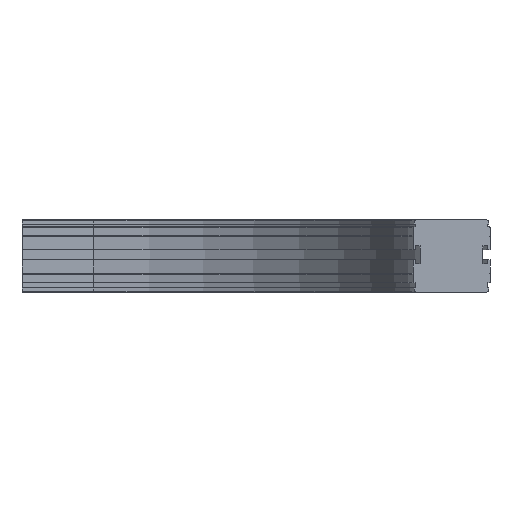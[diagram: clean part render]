
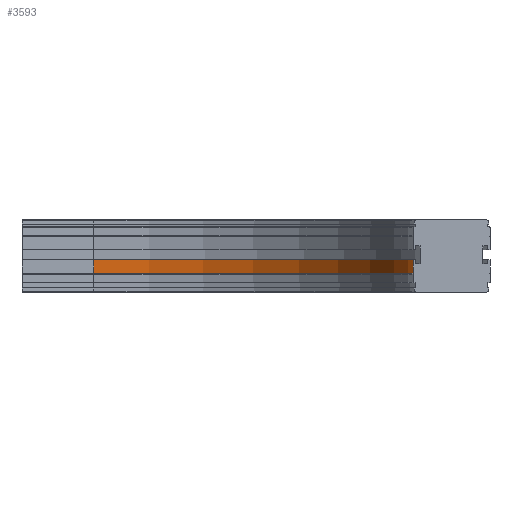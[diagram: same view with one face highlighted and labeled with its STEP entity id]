
A CAD part, front view. The second image highlights one B-rep face of the part: STEP entity #3593.
In plain terms, the highlighted cylindrical face has radius 357 mm (diameter 714 mm), a partial arc.
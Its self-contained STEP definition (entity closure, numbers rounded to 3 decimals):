
#2261=CARTESIAN_POINT('',(437.0,-400.,-60.));
#2262=VERTEX_POINT('',#2261);
#2292=CARTESIAN_POINT('',(437.0,-400.,-45.));
#2293=VERTEX_POINT('',#2292);
#2300=CARTESIAN_POINT('',(437.0,-400.,-60.));
#2301=DIRECTION('',(0.0,0.0,1.0));
#2302=VECTOR('',#2301,15.0);
#2303=LINE('',#2300,#2302);
#2304=EDGE_CURVE('',#2262,#2293,#2303,.T.);
#3550=CARTESIAN_POINT('',(80.0,-43.0,-60.));
#3551=VERTEX_POINT('',#3550);
#3552=CARTESIAN_POINT('',(80.0,-400.0,-60.));
#3553=DIRECTION('',(0.0,0.0,-1.0));
#3554=DIRECTION('',(-1.0,0.0,0.0));
#3555=AXIS2_PLACEMENT_3D('',#3552,#3553,#3554);
#3556=CIRCLE('',#3555,357.0);
#3557=EDGE_CURVE('',#3551,#2262,#3556,.T.);
#3569=CARTESIAN_POINT('',(80.0,-400.0,-52.5));
#3570=DIRECTION('',(0.0,0.0,-1.0));
#3571=DIRECTION('',(-1.0,0.0,0.0));
#3572=AXIS2_PLACEMENT_3D('',#3569,#3570,#3571);
#3573=CYLINDRICAL_SURFACE('',#3572,357.0);
#3574=ORIENTED_EDGE('',*,*,#2304,.T.);
#3575=CARTESIAN_POINT('',(80.0,-43.0,-45.));
#3576=VERTEX_POINT('',#3575);
#3577=CARTESIAN_POINT('',(80.0,-400.0,-45.));
#3578=DIRECTION('',(0.0,0.0,-1.0));
#3579=DIRECTION('',(-1.0,0.0,0.0));
#3580=AXIS2_PLACEMENT_3D('',#3577,#3578,#3579);
#3581=CIRCLE('',#3580,357.0);
#3582=EDGE_CURVE('',#3576,#2293,#3581,.T.);
#3583=ORIENTED_EDGE('',*,*,#3582,.F.);
#3584=CARTESIAN_POINT('',(80.0,-43.0,-60.));
#3585=DIRECTION('',(0.0,0.0,1.0));
#3586=VECTOR('',#3585,15.0);
#3587=LINE('',#3584,#3586);
#3588=EDGE_CURVE('',#3551,#3576,#3587,.T.);
#3589=ORIENTED_EDGE('',*,*,#3588,.F.);
#3590=ORIENTED_EDGE('',*,*,#3557,.T.);
#3591=EDGE_LOOP('',(#3574,#3583,#3589,#3590));
#3592=FACE_OUTER_BOUND('',#3591,.T.);
#3593=ADVANCED_FACE('',(#3592),#3573,.F.);
